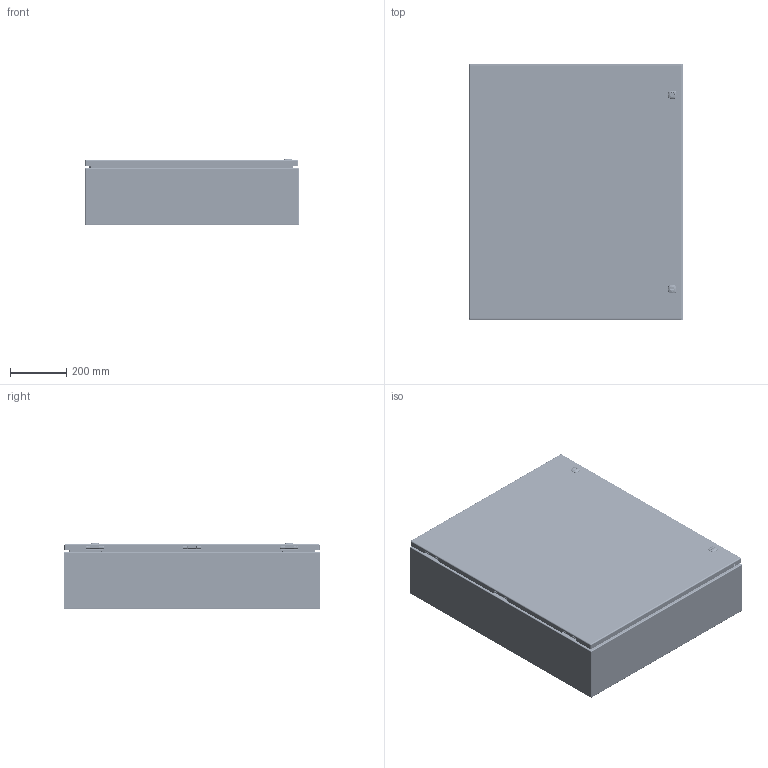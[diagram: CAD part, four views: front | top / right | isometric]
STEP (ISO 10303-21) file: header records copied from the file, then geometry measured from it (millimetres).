
FILE_DESCRIPTION(/* description */ ('5412ES 36" x 30" x 8" Assembly'),/* implementation_level */ '2;1');
FILE_NAME(/* name */ '5412ESB363008.stp',/* time_stamp */ '2024-01-17T17:24:58-05:00',/* author */ ('BoxCad'),/* organization */ (''),/* preprocessor_version */ 'ST-DEVELOPER v20',/* originating_system */ 'Autodesk Inventor 2024',/* authorisation */ '');
FILE_SCHEMA (('AUTOMOTIVE_DESIGN { 1 0 10303 214 3 1 1 }'));
Products named in the file (45): 5412ESB363008; 5412ESB363008B; 5412ESB363008B-P; STK-Q-16005; STUD_M6 x 16mm; 5412ESB363008C; 5412ESB363008C-P; 5412ESB363008G; STK-K-09800; STK-K-09800-2; STK-K-09800-3; STK-Q-33014; STK-Q-90398; STK-Q-40095; STK-Q-63410; STK-Q-16055; STK-Q-46020-36; STK-Q-07220-1; STK-Q-07220-2; STK-Q-07220-3; STK-Q-07220-4; STK-Q-07220-A; STK-Q-07220-B; STK-P-03820R; STK-S-00100; STK-K-12500; STK-Q-78111; STK-Q-78141; STK-Q-78120; STK-Q-78145; STK-Q-03200; STK-Q-78160; STK-Q-90390; STK-Q-78111-R; STK-Q-04050-08-1; STK-Q-04050-08-2; STK-Q-04050-08-3; STK-Q-04050-08-P; STK-Q-04051-N; STK-A-01800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
Assembly tree (89 placements, depth 4):
  5412ESB363008
    5412ESB363008B
      5412ESB363008B-P
      STK-Q-16005  x6
      STK-P-03820R
      STUD_M6 x 16mm
    5412ESB363008C
      5412ESB363008C-P
      5412ESB363008G
      STK-K-09800
        STK-Q-33014
        STK-Q-90398
        STK-Q-40095  x2
        STK-Q-63410  x2
      STK-K-09800-2
        STK-Q-33014
        STK-Q-90398
        STK-Q-40095  x2
        STK-Q-63410  x2
      STK-K-09800-3
        STK-Q-33014
        STK-Q-90398
        STK-Q-40095  x2
        STK-Q-63410  x2
      STK-Q-16055  x4
      STK-Q-46020-36  x2
      STK-Q-07220-1
        STK-Q-07220-A
        STK-Q-07220-B
      STK-Q-07220-2
        STK-Q-07220-A
        STK-Q-07220-B
      STK-Q-07220-3
        STK-Q-07220-A
        STK-Q-07220-B
      STK-Q-07220-4
        STK-Q-07220-A
        STK-Q-07220-B
      STK-P-03820R
      STK-K-12500  x2
        STK-Q-78111
        STK-Q-78141
        STK-Q-78120
        STK-Q-78145
        STK-Q-03200
        STK-Q-78160
        STK-Q-90390
        STK-Q-78111-R
      STK-S-00100
    STK-Q-04050-08-1
      STK-Q-04050-08-P
      STK-Q-04051-N
    STK-Q-04050-08-2
      STK-Q-04050-08-P
      STK-Q-04051-N
    STK-Q-04050-08-3
      STK-Q-04050-08-P
      STK-Q-04051-N
    STK-A-01800
    5412ESB363008IPK
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Bounding box: 762.45 x 914.4 x 236.09 mm (x, y, z)
Volume: 5959619.6 mm3; surface area: 6172276.6 mm2
Topology: 78 solids, 78 shells, 12350 faces, 32723 edges, 20581 vertices
Faces by surface type: bspline 4259, plane 3415, cylinder 3318, torus 922, sphere 258, cone 178
Full cylindrical faces by diameter (mm): 0 x1, 0.75 x11, 0.762 x11, 1 x12, 1.1 x12, 3.2 x6, 4.191 x64, 4.5 x4, 4.521 x12, 4.75 x3, 4.85 x24, 4.95 x6, 5 x4, 5.1 x31, 5.156 x2, 5.6 x3, 5.9 x30, 6.015 x64, 6.65 x6, 6.8 x4, 6.85 x12, 7.3 x3, 7.366 x4, 7.9 x10, 8 x14, 8.382 x3, 9.5 x4, 9.6 x2, 9.906 x4, 10 x2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
Entity records: 156646 total; most frequent: CARTESIAN_POINT 61710, ORIENTED_EDGE 21346, DIRECTION 16370, EDGE_CURVE 10673, VERTEX_POINT 6692, AXIS2_PLACEMENT_3D 6060, EDGE_LOOP 4461, LINE 4250
